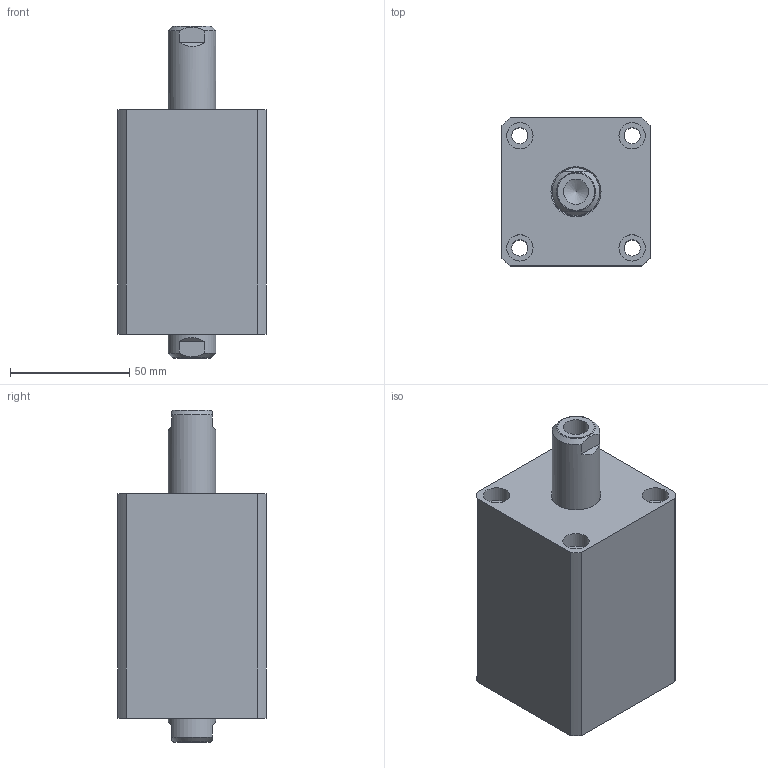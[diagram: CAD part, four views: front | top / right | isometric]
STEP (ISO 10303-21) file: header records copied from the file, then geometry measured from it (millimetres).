
FILE_DESCRIPTION(/* description */ (''),/* implementation_level */ '2;1');
FILE_NAME(/* name */ 'CHTB-SW32-25N.stp',/* time_stamp */ '2022-04-29T17:16:16+08:00',/* author */ (''),/* organization */ (''),/* preprocessor_version */ 'ST-DEVELOPER v16.7',/* originating_system */ 'SIEMENS PLM Software NX 12.0',/* authorisation */ '');
FILE_SCHEMA (('AUTOMOTIVE_DESIGN { 1 0 10303 214 3 1 1 1 }'));
Length unit declared in the file: millimetre
Products named in the file (1): CHTB-SW32-25N
Bounding box: 62 x 62 x 139 mm (x, y, z)
Volume: 333334 mm3; surface area: 70319.8 mm2
Topology: 3 solids, 3 shells, 443 faces, 1192 edges, 801 vertices
Faces by surface type: plane 270, extrusion 83, cylinder 53, torus 14, cone 13, bspline 10
Full cylindrical faces by diameter (mm): 3 x2, 4 x2, 6.8 x4, 10.5 x2, 10.7 x2, 11 x8, 20 x4, 24.5 x1, 26 x2, 28 x1, 32 x5, 38 x9, 46 x1
Entity records: 20950 total; most frequent: CARTESIAN_POINT 8495, ORIENTED_EDGE 2208, DIRECTION 1722, EDGE_CURVE 1104, VECTOR 820, VERTEX_POINT 786, LINE 737, EDGE_LOOP 556
